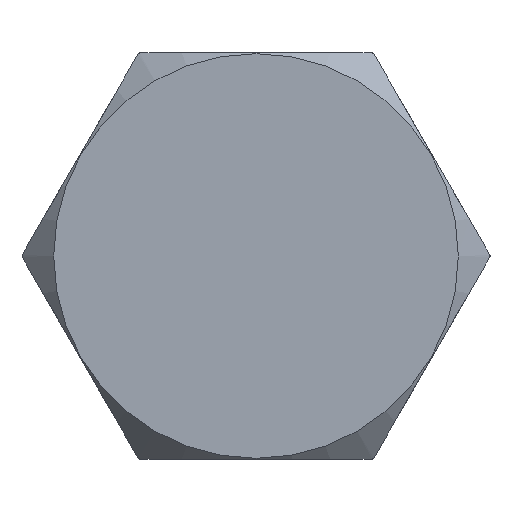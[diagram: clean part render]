
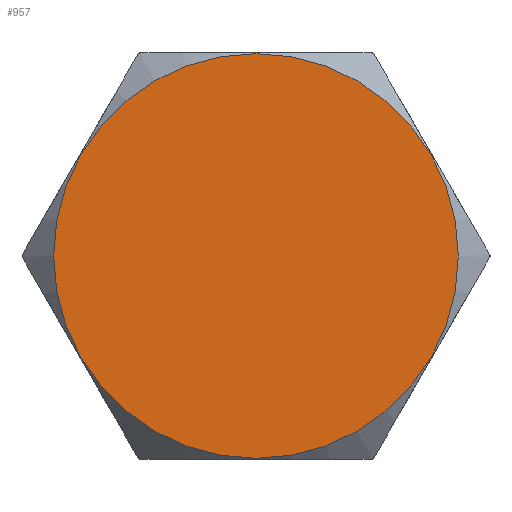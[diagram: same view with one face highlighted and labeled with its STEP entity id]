
A CAD part, front view. The second image highlights one B-rep face of the part: STEP entity #957.
In plain terms, the highlighted planar face has unit normal (0, -1, 0).
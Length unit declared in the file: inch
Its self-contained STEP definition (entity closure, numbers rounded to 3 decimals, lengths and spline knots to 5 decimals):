
#56=PLANE('',#1090);
#205=FACE_OUTER_BOUND('',#263,.T.);
#263=EDGE_LOOP('',(#806));
#333=CIRCLE('',#1087,0.498);
#445=VERTEX_POINT('',#1789);
#572=EDGE_CURVE('',#445,#445,#333,.T.);
#806=ORIENTED_EDGE('',*,*,#572,.F.);
#957=ADVANCED_FACE('',(#205),#56,.T.);
#1087=AXIS2_PLACEMENT_3D('',#1790,#1325,#1326);
#1090=AXIS2_PLACEMENT_3D('',#1794,#1332,#1333);
#1325=DIRECTION('center_axis',(0.,1.,0.));
#1326=DIRECTION('ref_axis',(0.,0.,1.));
#1332=DIRECTION('center_axis',(0.,-1.,0.));
#1333=DIRECTION('ref_axis',(0.,0.,-1.));
#1789=CARTESIAN_POINT('',(0.,0.,-0.498));
#1790=CARTESIAN_POINT('Origin',(0.,0.,0.));
#1794=CARTESIAN_POINT('Origin',(0.,0.,0.));
